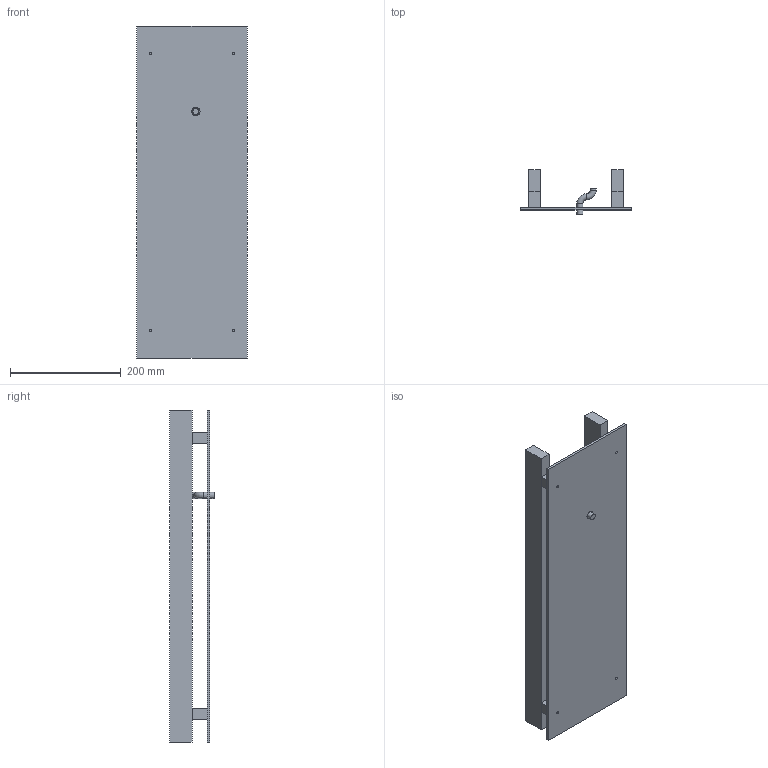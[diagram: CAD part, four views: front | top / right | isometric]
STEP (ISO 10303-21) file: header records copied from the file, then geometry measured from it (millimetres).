
FILE_DESCRIPTION(('Open CASCADE Model'),'2;1');
FILE_NAME('Open CASCADE Shape Model','2026-11-14T16:02:43',('Author'),( 'Open CASCADE'),'Open CASCADE STEP processor 7.9','Open CASCADE 7.9' ,'Unknown');
FILE_SCHEMA(('AUTOMOTIVE_DESIGN { 1 0 10303 214 1 1 1 1 }'));
Length unit declared in the file: millimetre
Products named in the file (9): Open CASCADE STEP translator 7.9 252; Open CASCADE STEP translator 7.9 252.1; Open CASCADE STEP translator 7.9 252.2; Open CASCADE STEP translator 7.9 252.3; Open CASCADE STEP translator 7.9 252.4; Open CASCADE STEP translator 7.9 252.5; Open CASCADE STEP translator 7.9 252.6; Open CASCADE STEP translator 7.9 252.7; Open CASCADE STEP translator 7.9 252.8
Assembly tree (8 placements, depth 2):
  Open CASCADE STEP translator 7.9 252
    Open CASCADE STEP translator 7.9 252.1
    Open CASCADE STEP translator 7.9 252.2
    Open CASCADE STEP translator 7.9 252.3
    Open CASCADE STEP translator 7.9 252.4
    Open CASCADE STEP translator 7.9 252.5
    Open CASCADE STEP translator 7.9 252.6
    Open CASCADE STEP translator 7.9 252.7
    Open CASCADE STEP translator 7.9 252.8
Bounding box: 200 x 80 x 600 mm (x, y, z)
Volume: 1487760.2 mm3; surface area: 409414 mm2
Topology: 8 solids, 8 shells, 57 faces, 120 edges, 79 vertices
Faces by surface type: plane 44, cylinder 11, torus 2
Full cylindrical faces by diameter (mm): 4.5 x8, 11 x2, 15 x1
Entity records: 3244 total; most frequent: CARTESIAN_POINT 512, DIRECTION 510, LINE 308, VECTOR 308, ORIENTED_EDGE 240, PCURVE 240, DEFINITIONAL_REPRESENTATION 240, EDGE_CURVE 120
